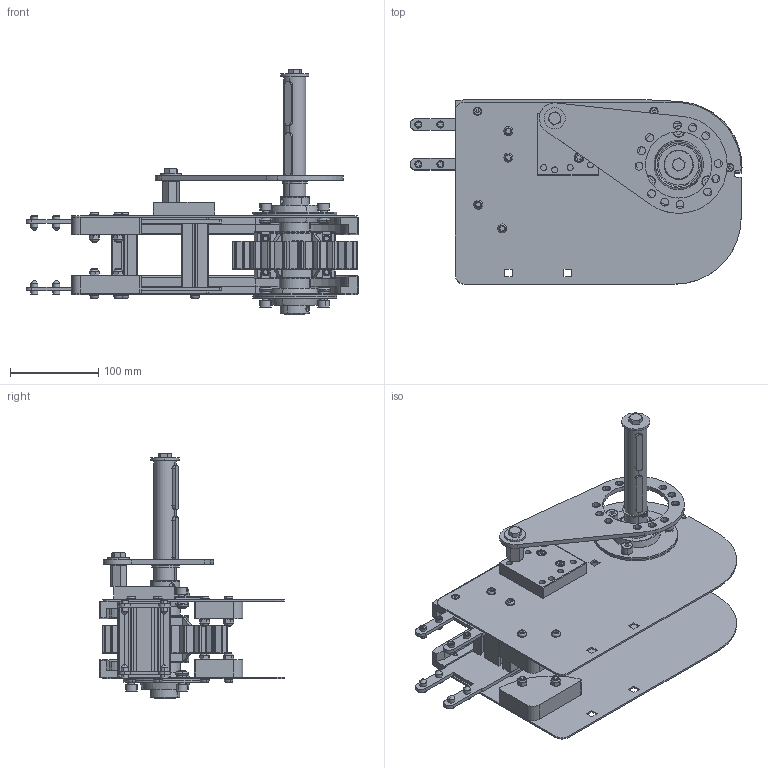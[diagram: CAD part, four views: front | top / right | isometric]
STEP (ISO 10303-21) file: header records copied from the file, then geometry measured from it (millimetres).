
FILE_DESCRIPTION (( 'STEP AP214' ), '1' );
FILE_NAME ('2000.325.163-2S.STEP', '2021-06-18T07:25:13', ( 'Localadmin' ), ( 'Microsoft' ), 'SwSTEP 2.0', 'SolidWorks 2018', '' );
FILE_SCHEMA (( 'AUTOMOTIVE_DESIGN' ));
Length unit declared in the file: millimetre
Products named in the file (32): VITI TCEI UNI 5931 INOX_M6x30 UNI 5931 INOX; 084.802.027; GRANI A PUNTA CONICA UNI 5927_M8x16 UNI 5927; 2000.325.163-2S; VITI TSEI UNI 5933 INOX_0410UNI5933A2; 084.312.006; RUOTE DI RINVIO NSX881; DADI ESAGONALI AUTOBLOCCANTI UNI 7473 INOX_M6 UNI 7473 INOX; SBPF205; VITI TESTA BOMBATA ISO 730 INOX_M6x30 ISO 7380 INOX; CHIAVETTE_A 8x7x50 UNI 6604-69; PU008.012.025N; 2000.325.105-2S; Circlip DIN 471 - 25 x 1.2_Circlip DIN 471 - 25 x 1.2; 2000.001.024; VITI TESTA BOMBATA ISO 730 INOX_M6x20 ISO 7380 INOX; 2000.325.003S; 084.301.000 VITI ALUSIC_084.301.029; 2000.001.011; VITI TE UNI 5739 INOX_M8x16 UNI 5739 INOX; 2000.325.102; 084.808.005-1; RONDELLE FASCIA LARGA UNI 6593 INOX_8.4x24 UNI 6593 INOX; 2000.001.026; GRANI A PUNTA PIATTA UNI 5923_M8x20 UNI 5923; 2000.001.025; 2000.325.104-2S; RONDELLE FASCIA LARGA UNI 6593 INOX_8.4x32 UNI 6593 INOX; 2000.325.001_Default<Lavorato>; VITI TE UNI 5739 INOX_M8x20 UNI 5739 INOX; 2000.001.001; 2000.001.006-2
Assembly tree (75 placements, depth 2):
  2000.325.163-2S
    084.802.027
    2000.001.006-2  x2
    2000.001.001  x2
    2000.325.001_Default<Lavorato>  x2
    2000.325.104-2S
    2000.001.025
    2000.001.026  x2
    084.808.005-1
    2000.325.102
    2000.001.011
    2000.325.003S  x2
    2000.001.024
    2000.325.105-2S
    CHIAVETTE_A 8x7x50 UNI 6604-69  x3
    SBPF205  x2
    RUOTE DI RINVIO NSX881
    VITI TSEI UNI 5933 INOX_0410UNI5933A2  x8
    GRANI A PUNTA CONICA UNI 5927_M8x16 UNI 5927  x8
    VITI TCEI UNI 5931 INOX_M6x30 UNI 5931 INOX  x2
    VITI TE UNI 5739 INOX_M8x20 UNI 5739 INOX
    RONDELLE FASCIA LARGA UNI 6593 INOX_8.4x32 UNI 6593 INOX
    GRANI A PUNTA PIATTA UNI 5923_M8x20 UNI 5923
    RONDELLE FASCIA LARGA UNI 6593 INOX_8.4x24 UNI 6593 INOX
    VITI TE UNI 5739 INOX_M8x16 UNI 5739 INOX
    084.301.000 VITI ALUSIC_084.301.029  x6
    VITI TESTA BOMBATA ISO 730 INOX_M6x20 ISO 7380 INOX  x6
    Circlip DIN 471 - 25 x 1.2_Circlip DIN 471 - 25 x 1.2
    PU008.012.025N
    VITI TESTA BOMBATA ISO 730 INOX_M6x30 ISO 7380 INOX  x4
    DADI ESAGONALI AUTOBLOCCANTI UNI 7473 INOX_M6 UNI 7473 INOX  x4
    084.312.006  x6
Bounding box: 376.25 x 208.8 x 278.33 mm (x, y, z)
Volume: 1455573.8 mm3; surface area: 758267.8 mm2
Topology: 81 solids, 87 shells, 3176 faces, 7643 edges, 4608 vertices
Faces by surface type: plane 1133, cylinder 1077, bspline 608, cone 302, torus 56
Entity records: 77142 total; most frequent: CARTESIAN_POINT 24775, ORIENTED_EDGE 10790, DIRECTION 10341, EDGE_CURVE 5397, AXIS2_PLACEMENT_3D 3938, VERTEX_POINT 3268, EDGE_LOOP 2513, VECTOR 2465
